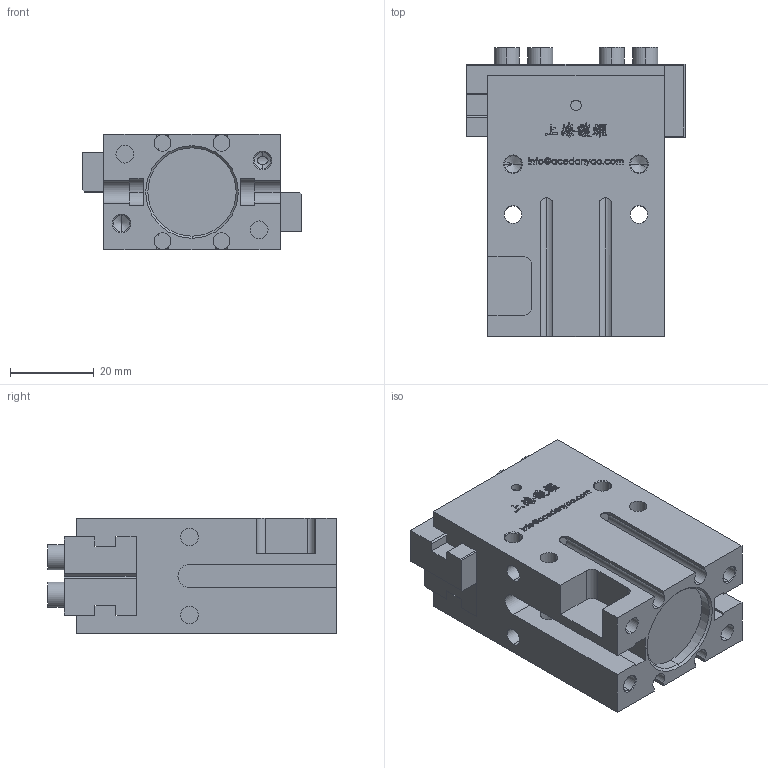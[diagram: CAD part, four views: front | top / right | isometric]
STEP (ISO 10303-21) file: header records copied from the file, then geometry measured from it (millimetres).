
FILE_DESCRIPTION (( 'STEP AP203' ), '1' );
FILE_NAME ('PEP-20-C1-VT-原始檔-組合-W106.04.20.STEP', '2017-04-20T02:31:50', ( 'DanyaoCAD' ), ( '' ), 'SwSTEP 2.0', 'SolidWorks 2016', '' );
FILE_SCHEMA (( 'CONFIG_CONTROL_DESIGN' ));
Length unit declared in the file: millimetre
Products named in the file (3): Corpo; PEP-20-C1-VT-原始檔-組合-W106.04.20; Griffa
Assembly tree (3 placements, depth 2):
  PEP-20-C1-VT-原始檔-組合-W106.04.20
    Griffa  x2
    Corpo
Bounding box: 52 x 68.8 x 27.6 mm (x, y, z)
Volume: 64344.2 mm3; surface area: 23518.1 mm2
Topology: 3 solids, 3 shells, 1010 faces, 2811 edges, 1865 vertices
Faces by surface type: bspline 640, plane 261, cylinder 91, cone 18
Entity records: 48012 total; most frequent: CARTESIAN_POINT 26904, ORIENTED_EDGE 5442, EDGE_CURVE 2721, DIRECTION 2271, VERTEX_POINT 1809, B_SPLINE_CURVE_WITH_KNOTS 1298, LINE 1255, VECTOR 1255
